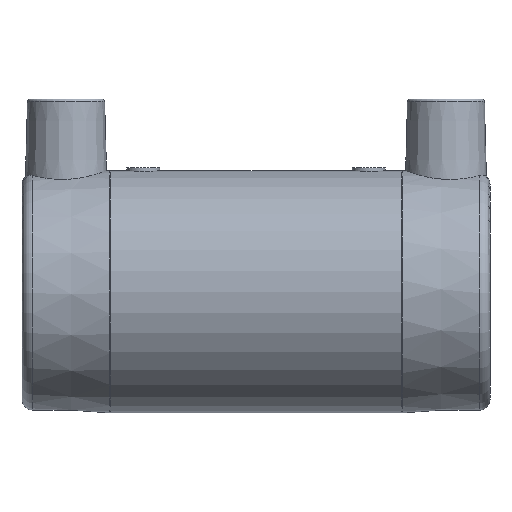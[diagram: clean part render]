
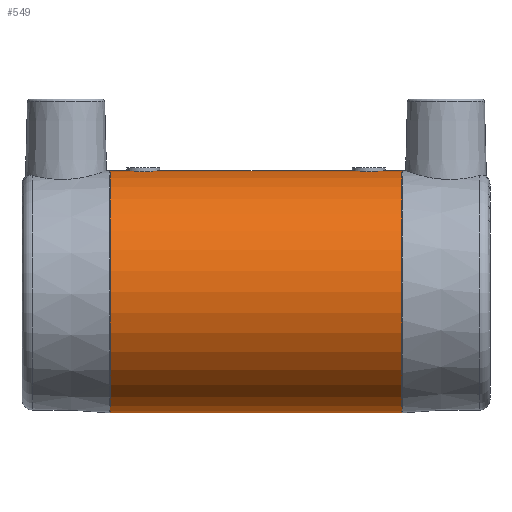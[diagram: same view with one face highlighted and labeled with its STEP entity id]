
A CAD part, front view. The second image highlights one B-rep face of the part: STEP entity #549.
In plain terms, the highlighted cylindrical face has radius 22 mm (diameter 44 mm), a full revolution.
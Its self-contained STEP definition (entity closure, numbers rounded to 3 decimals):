
#69=CYLINDRICAL_SURFACE('',#616,22.);
#108=B_SPLINE_CURVE_WITH_KNOTS('',3,(#940,#941,#942,#943,#944,#945,#946,
#947,#948,#949,#950),.UNSPECIFIED.,.T.,.F.,(1,1,1,1,1,1,1,1,1,1,1,1,1,1,
1),(-0.007,-0.005,-0.002,0.,
0.002,0.005,0.007,0.009,
0.012,0.014,0.016,0.019,
0.021,0.023,0.026),.UNSPECIFIED.);
#109=B_SPLINE_CURVE_WITH_KNOTS('',3,(#952,#953,#954,#955,#956,#957,#958,
#959,#960,#961,#962),.UNSPECIFIED.,.T.,.F.,(1,1,1,1,1,1,1,1,1,1,1,1,1,1,
1),(-0.007,-0.005,-0.002,0.,
0.002,0.005,0.007,0.009,
0.012,0.014,0.016,0.019,
0.021,0.023,0.026),.UNSPECIFIED.);
#136=ORIENTED_EDGE('',*,*,#262,.T.);
#137=ORIENTED_EDGE('',*,*,#263,.T.);
#138=ORIENTED_EDGE('',*,*,#264,.T.);
#139=ORIENTED_EDGE('',*,*,#265,.T.);
#262=EDGE_CURVE('',#326,#326,#108,.T.);
#263=EDGE_CURVE('',#327,#327,#109,.T.);
#264=EDGE_CURVE('',#328,#328,#372,.F.);
#265=EDGE_CURVE('',#329,#329,#373,.T.);
#326=VERTEX_POINT('',#951);
#327=VERTEX_POINT('',#963);
#328=VERTEX_POINT('',#965);
#329=VERTEX_POINT('',#967);
#372=CIRCLE('',#617,22.);
#373=CIRCLE('',#618,22.);
#412=EDGE_LOOP('',(#136));
#413=EDGE_LOOP('',(#137));
#414=EDGE_LOOP('',(#138));
#415=EDGE_LOOP('',(#139));
#482=FACE_BOUND('',#412,.T.);
#483=FACE_BOUND('',#413,.T.);
#484=FACE_BOUND('',#414,.T.);
#485=FACE_BOUND('',#415,.T.);
#549=ADVANCED_FACE('',(#482,#483,#484,#485),#69,.T.);
#616=AXIS2_PLACEMENT_3D('',#939,#719,#720);
#617=AXIS2_PLACEMENT_3D('',#964,#721,#722);
#618=AXIS2_PLACEMENT_3D('',#966,#723,#724);
#719=DIRECTION('',(-1.,0.,0.));
#720=DIRECTION('',(0.,0.,1.));
#721=DIRECTION('',(1.,0.,0.));
#722=DIRECTION('',(0.,0.,-1.));
#723=DIRECTION('',(1.,0.,0.));
#724=DIRECTION('',(0.,0.,-1.));
#939=CARTESIAN_POINT('',(-60.,0.,0.));
#940=CARTESIAN_POINT('',(22.849,2.353,21.897));
#941=CARTESIAN_POINT('',(23.825,-0.001,22.051));
#942=CARTESIAN_POINT('',(22.85,-2.351,21.898));
#943=CARTESIAN_POINT('',(20.503,-3.324,21.743));
#944=CARTESIAN_POINT('',(18.15,-2.352,21.898));
#945=CARTESIAN_POINT('',(17.176,-0.001,22.051));
#946=CARTESIAN_POINT('',(18.147,2.348,21.898));
#947=CARTESIAN_POINT('',(20.497,3.325,21.743));
#948=CARTESIAN_POINT('',(22.849,2.353,21.897));
#949=CARTESIAN_POINT('',(23.825,-0.001,22.051));
#950=CARTESIAN_POINT('',(22.85,-2.351,21.898));
#951=CARTESIAN_POINT('',(23.5,0.,22.));
#952=CARTESIAN_POINT('',(-18.151,2.353,21.897));
#953=CARTESIAN_POINT('',(-17.175,-0.001,22.051));
#954=CARTESIAN_POINT('',(-18.15,-2.351,21.898));
#955=CARTESIAN_POINT('',(-20.497,-3.324,21.743));
#956=CARTESIAN_POINT('',(-22.85,-2.352,21.898));
#957=CARTESIAN_POINT('',(-23.824,-0.001,22.051));
#958=CARTESIAN_POINT('',(-22.853,2.348,21.898));
#959=CARTESIAN_POINT('',(-20.503,3.325,21.743));
#960=CARTESIAN_POINT('',(-18.151,2.353,21.897));
#961=CARTESIAN_POINT('',(-17.175,-0.001,22.051));
#962=CARTESIAN_POINT('',(-18.15,-2.351,21.898));
#963=CARTESIAN_POINT('',(-17.5,0.,22.));
#964=CARTESIAN_POINT('',(26.482,0.,0.));
#965=CARTESIAN_POINT('',(26.482,0.,-22.));
#966=CARTESIAN_POINT('',(-26.482,0.,0.));
#967=CARTESIAN_POINT('',(-26.482,0.,-22.));
